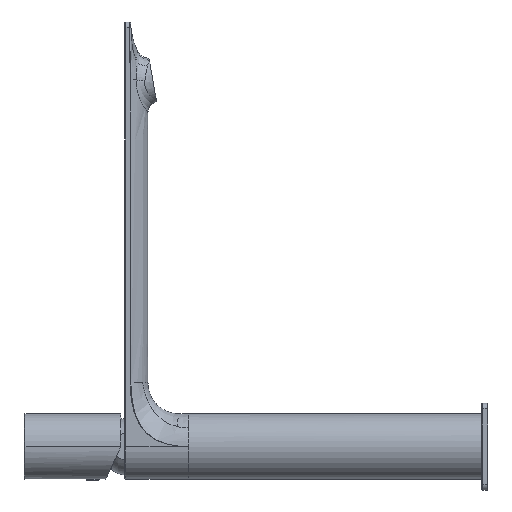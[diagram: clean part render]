
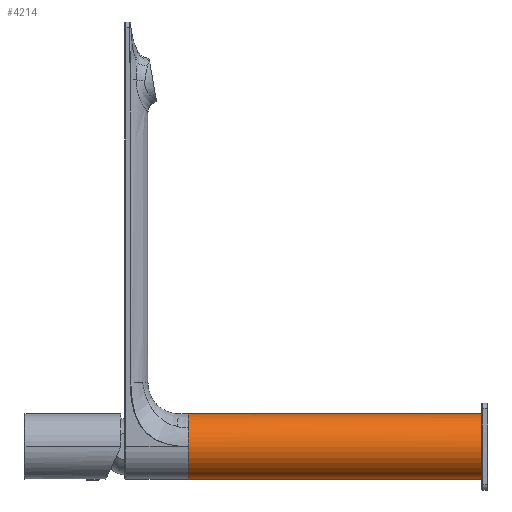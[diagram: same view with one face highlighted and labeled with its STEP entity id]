
A CAD part, left-side view. The second image highlights one B-rep face of the part: STEP entity #4214.
In plain terms, the highlighted cylindrical face has radius 17 mm (diameter 34 mm), a partial arc.
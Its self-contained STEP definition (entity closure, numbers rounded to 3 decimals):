
#440=DIRECTION('',(0.,1.,0.));
#441=VECTOR('',#440,152.);
#442=CARTESIAN_POINT('',(0.,0.,17.));
#443=LINE('',#442,#441);
#449=CARTESIAN_POINT('',(0.,152.,0.));
#450=DIRECTION('',(0.,1.,0.));
#451=DIRECTION('',(0.,0.,-1.));
#452=AXIS2_PLACEMENT_3D('',#449,#450,#451);
#634=CARTESIAN_POINT('',(0.,0.,0.));
#635=DIRECTION('',(0.,1.,0.));
#636=DIRECTION('',(0.,0.,-1.));
#637=AXIS2_PLACEMENT_3D('',#634,#635,#636);
#639=DIRECTION('',(0.,1.,0.));
#640=VECTOR('',#639,152.);
#641=CARTESIAN_POINT('',(0.,0.,-17.));
#642=LINE('',#641,#640);
#676=CARTESIAN_POINT('',(0.,152.,0.));
#677=DIRECTION('',(0.,1.,0.));
#678=DIRECTION('',(-1.,0.,0.));
#679=AXIS2_PLACEMENT_3D('',#676,#677,#678);
#966=CARTESIAN_POINT('',(0.,152.,0.));
#967=DIRECTION('',(0.,1.,0.));
#968=DIRECTION('',(-0.819,0.,0.574));
#969=AXIS2_PLACEMENT_3D('',#966,#967,#968);
#2934=CARTESIAN_POINT('',(0.,152.,-17.));
#2935=CARTESIAN_POINT('',(-17.,152.,0.));
#2936=VERTEX_POINT('',#2934);
#2937=VERTEX_POINT('',#2935);
#2957=CARTESIAN_POINT('',(-13.926,152.,9.751));
#2958=VERTEX_POINT('',#2957);
#2963=CARTESIAN_POINT('',(0.,152.,17.));
#2964=VERTEX_POINT('',#2963);
#3078=CARTESIAN_POINT('',(0.,0.,17.));
#3079=CARTESIAN_POINT('',(0.,0.,-17.));
#3080=VERTEX_POINT('',#3078);
#3081=VERTEX_POINT('',#3079);
#4199=CARTESIAN_POINT('',(0.,-115.,0.));
#4200=DIRECTION('',(0.,1.,0.));
#4201=DIRECTION('',(0.,0.,1.));
#4202=AXIS2_PLACEMENT_3D('',#4199,#4200,#4201);
#4203=CYLINDRICAL_SURFACE('',#4202,17.);
#4204=ORIENTED_EDGE('',*,*,#3954,.F.);
#4205=ORIENTED_EDGE('',*,*,#3925,.T.);
#4206=ORIENTED_EDGE('',*,*,#3923,.T.);
#4208=ORIENTED_EDGE('',*,*,#4207,.T.);
#4210=ORIENTED_EDGE('',*,*,#4209,.T.);
#4211=ORIENTED_EDGE('',*,*,#3913,.F.);
#4212=EDGE_LOOP('',(#4204,#4205,#4206,#4208,#4210,#4211));
#4213=FACE_OUTER_BOUND('',#4212,.F.);
#4214=ADVANCED_FACE('',(#4213),#4203,.T.);
#453=CIRCLE('',#452,17.);
#638=CIRCLE('',#637,17.);
#680=CIRCLE('',#679,17.);
#970=CIRCLE('',#969,17.);
#3913=EDGE_CURVE('',#3080,#2964,#443,.T.);
#3923=EDGE_CURVE('',#2936,#2937,#453,.T.);
#3925=EDGE_CURVE('',#3081,#2936,#642,.T.);
#3954=EDGE_CURVE('',#3081,#3080,#638,.T.);
#4207=EDGE_CURVE('',#2937,#2958,#680,.T.);
#4209=EDGE_CURVE('',#2958,#2964,#970,.T.);
